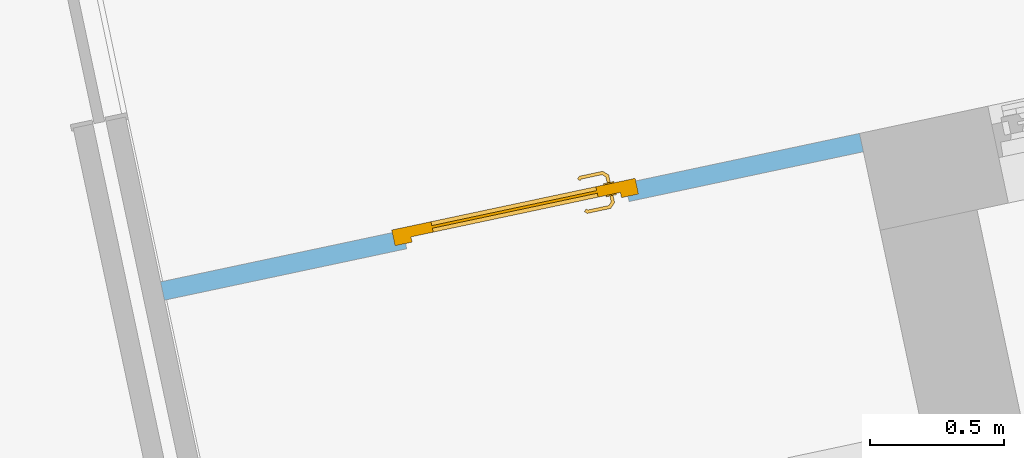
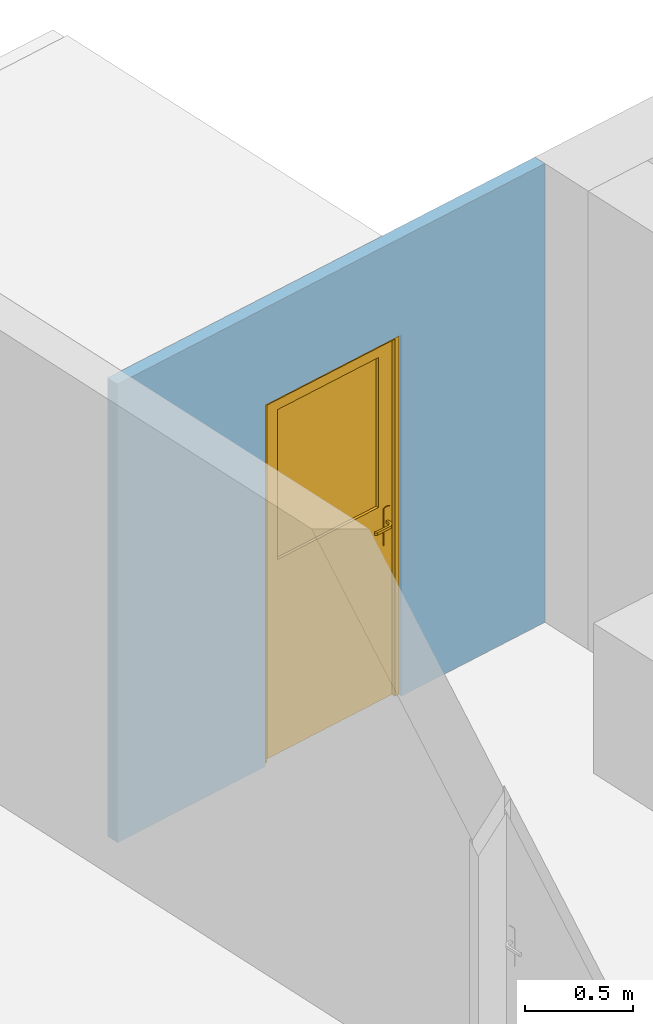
# One storey, part 9 of 17: 1 door, 1 opening, plus 1 element that does not belong to this part.
"""IFC2X3 building model written with IfcOpenShell, lengths in centimetres."""

import ifcopenshell
import ifcopenshell.guid

model = None  # the IFC model being written
_history = None  # IfcOwnerHistory: only IFC2X3 demands one
_inside = {}  # id of a spatial element -> (the spatial element, [elements in it])
_under = {}  # id of a project, library or spatial element -> (it, [spatial elements below it])
_declared = {}  # id of a project -> (the project, [libraries it declares])
_typed = {}  # id of a type object -> (the type object, [elements of that type])
_made_of = {}  # id of a material, layer set ... -> (it, [elements and type objects made of it])


def new_model(schema):
    """Start an empty IFC model of exactly this schema.

    Asked for "IFC4X3", IfcOpenShell would pick the latest addendum, in which some entities
    have other attributes; the version numbers below select the first issue.
    IFC2X3 requires an IfcOwnerHistory on every rooted entity: one is made here for all.
    """
    global model, _history
    if schema == "IFC4X3":
        model = ifcopenshell.file(schema_version=(4, 3, 0, 0))
    else:
        model = ifcopenshell.file(schema=schema)
    _inside.clear()
    _under.clear()
    _declared.clear()
    _typed.clear()
    _made_of.clear()
    _history = None
    if model.schema == "IFC2X3":
        org = make("IfcOrganization", Name="unknown")
        user = make(
            "IfcPersonAndOrganization",
            ThePerson=make("IfcPerson", FamilyName="unknown"),
            TheOrganization=org,
        )
        app = make(
            "IfcApplication",
            ApplicationDeveloper=org,
            Version="unknown",
            ApplicationFullName="unknown",
            ApplicationIdentifier="unknown",
        )
        _history = make(
            "IfcOwnerHistory",
            OwningUser=user,
            OwningApplication=app,
            ChangeAction="ADDED",
            CreationDate=0,
        )
    return model


def make(cls, **values):
    """One entity of the class cls with the attributes given. An attribute that is None is left unset."""
    return model.create_entity(
        cls, **{name: value for name, value in values.items() if value is not None}
    )


def entity(cls, *values):
    """Any entity or typed value of the class cls, its attributes in the order of the schema. None: left unset."""
    e = model.create_entity(cls)
    for i, value in enumerate(values):
        if value is not None:
            e[i] = value
    return e


def rooted(cls, **values):
    """An entity with a GlobalId (a new one), such as an element, a storey or a relation."""
    return make(cls, GlobalId=ifcopenshell.guid.new(), OwnerHistory=_history, **values)


def si_unit(unit_type, name, prefix=None):
    """IfcSIUnit, for example si_unit("LENGTHUNIT", "METRE", prefix="MILLI")."""
    return make("IfcSIUnit", UnitType=unit_type, Prefix=prefix, Name=name)


def converted_unit(unit_type, name, factor, base, dimensions=None, offset=None):
    """IfcConversionBasedUnit, such as the inch: factor (a typed value) times the base unit."""
    return make(
        "IfcConversionBasedUnit"
        if offset is None
        else "IfcConversionBasedUnitWithOffset",
        ConversionOffset=offset,
        Dimensions=None
        if dimensions is None
        else entity("IfcDimensionalExponents", *dimensions),
        UnitType=unit_type,
        Name=name,
        ConversionFactor=make(
            "IfcMeasureWithUnit", ValueComponent=factor, UnitComponent=base
        ),
    )


def derived_unit(unit_type, elements):
    """IfcDerivedUnit: a product of units, each with its exponent."""
    return make(
        "IfcDerivedUnit",
        Elements=[
            make("IfcDerivedUnitElement", Unit=unit, Exponent=power)
            for unit, power in elements
        ],
        UnitType=unit_type,
    )


def assignment(units):
    """IfcUnitAssignment: the units of a project."""
    return None if units is None else make("IfcUnitAssignment", Units=units)


def point(xyz):
    """IfcCartesianPoint."""
    return None if xyz is None else make("IfcCartesianPoint", Coordinates=xyz)


def direction(xyz):
    """IfcDirection."""
    return None if xyz is None else make("IfcDirection", DirectionRatios=xyz)


def frame(location, z_axis=None, x_axis=None):
    """IfcAxis2Placement3D, a coordinate frame: its origin and axes. An axis left out is left unset."""
    return make(
        "IfcAxis2Placement3D",
        Location=point(location),
        Axis=direction(z_axis),
        RefDirection=direction(x_axis),
    )


def frame_2d(location, x_axis=None):
    """IfcAxis2Placement2D, a coordinate frame in the plane: its origin and x axis."""
    return make(
        "IfcAxis2Placement2D", Location=point(location), RefDirection=direction(x_axis)
    )


def origin():
    """The frame at (0, 0, 0) with its axes left unset."""
    return frame((0.0, 0.0, 0.0))


def place(relative_to, where):
    """IfcLocalPlacement: puts the frame where relative to a parent placement (None: the world)."""
    return make(
        "IfcLocalPlacement", PlacementRelTo=relative_to, RelativePlacement=where
    )


def context(
    kind, dimensions, precision=None, world=None, true_north=None, identifier=None
):
    """IfcGeometricRepresentationContext, for example the 3D "Model" context."""
    return make(
        "IfcGeometricRepresentationContext",
        ContextIdentifier=identifier,
        ContextType=kind,
        CoordinateSpaceDimension=dimensions,
        Precision=precision,
        WorldCoordinateSystem=world,
        TrueNorth=true_north,
    )


def subcontext(parent, identifier, kind, view, scale=None):
    """IfcGeometricRepresentationSubContext, for example "Body" below "Model"."""
    return make(
        "IfcGeometricRepresentationSubContext",
        ContextIdentifier=identifier,
        ContextType=kind,
        ParentContext=parent,
        TargetScale=scale,
        TargetView=view,
    )


def project(units=None, contexts=None):
    """IfcProject with its units and contexts."""
    return rooted(
        "IfcProject",
        Name="project",
        RepresentationContexts=contexts,
        UnitsInContext=assignment(units),
    )


def spatial(cls, under=None, at=None, **own):
    """A site, building, storey or space (cls), placed at a placement, below another one or the project."""
    s = rooted(cls, ObjectPlacement=at, **own)
    if under is not None:
        _under.setdefault(under.id(), (under, []))[1].append(s)
    return s


def polyline(points):
    """IfcPolyline through the points."""
    return make("IfcPolyline", Points=[point(p) for p in points])


def profile(cls, at=None, kind="AREA", **sizes):
    """A parametric profile (cls). Its sizes go by their IFC names, for example OverallWidth=200.0."""
    return make(cls, ProfileType=kind, Position=at, **sizes)


def rectangle(**sizes):
    """IfcRectangleProfileDef."""
    return profile("IfcRectangleProfileDef", **sizes)


def extrude(swept, where, along, depth):
    """IfcExtrudedAreaSolid: the profile swept, set in the frame where, extruded along a direction by depth."""
    return make(
        "IfcExtrudedAreaSolid",
        SweptArea=swept,
        Position=where,
        ExtrudedDirection=direction(along),
        Depth=depth,
    )


def clip(a, b, op="DIFFERENCE"):
    """IfcBooleanClippingResult: the solid a cut by the half space b."""
    return make(
        "IfcBooleanClippingResult", Operator=op, FirstOperand=a, SecondOperand=b
    )


def bounded_halfspace(plane, agree, where, boundary):
    """IfcPolygonalBoundedHalfSpace: a half space limited to a polygon's prism."""
    return make(
        "IfcPolygonalBoundedHalfSpace",
        BaseSurface=make("IfcPlane", Position=plane),
        AgreementFlag=agree,
        Position=where,
        PolygonalBoundary=boundary,
    )


def faces_of(points, faces, orient=None, outer=None):
    """IfcFace entities. A face is a list of loops; a loop is a list of indices into points, from 0.

    orient and outer hold one flag for each loop. By default every Orientation is true, the
    first loop of a face is its IfcFaceOuterBound and the others are IfcFaceBound.
    """
    made = []
    for i, loops in enumerate(faces):
        bounds = []
        for j, loop in enumerate(loops):
            is_outer = j == 0 if outer is None else outer[i][j]
            bounds.append(
                make(
                    "IfcFaceOuterBound" if is_outer else "IfcFaceBound",
                    Bound=make("IfcPolyLoop", Polygon=[points[k] for k in loop]),
                    Orientation=True if orient is None else orient[i][j],
                )
            )
        made.append(make("IfcFace", Bounds=bounds))
    return made


def faceted_brep(points, faces, orient=None, outer=None, voids=None):
    """IfcFacetedBrep: a solid bounded by flat faces; with voids (closed shells), ...WithVoids."""
    shared = [point(p) for p in points]
    hull = make("IfcClosedShell", CfsFaces=faces_of(shared, faces, orient, outer))
    if voids is None:
        return make("IfcFacetedBrep", Outer=hull)
    return make(
        "IfcFacetedBrepWithVoids",
        Outer=hull,
        Voids=[
            make(cls, CfsFaces=faces_of(shared, fs, o, b)) for cls, fs, o, b in voids
        ],
    )


def shape(context_of_items, identifier, shape_type, items):
    """IfcShapeRepresentation: the items that make up one representation, for example the "Body"."""
    return make(
        "IfcShapeRepresentation",
        ContextOfItems=context_of_items,
        RepresentationIdentifier=identifier,
        RepresentationType=shape_type,
        Items=items,
    )


def source(mapping_origin, context_of_items, identifier, shape_type, items):
    """IfcRepresentationMap: a shape defined once, which mapped items show again and again."""
    return make(
        "IfcRepresentationMap",
        MappingOrigin=mapping_origin,
        MappedRepresentation=shape(context_of_items, identifier, shape_type, items),
    )


def transform(
    local_origin,
    x_axis=None,
    y_axis=None,
    z_axis=None,
    scale=None,
    scale2=None,
    scale3=None,
    uniform=True,
):
    """IfcCartesianTransformationOperator3D, or its non-uniform kind. x_axis, y_axis, z_axis: its Axis1, 2, 3."""
    if uniform:
        return make(
            "IfcCartesianTransformationOperator3D",
            Axis1=direction(x_axis),
            Axis2=direction(y_axis),
            LocalOrigin=point(local_origin),
            Scale=scale,
            Axis3=direction(z_axis),
        )
    return make(
        "IfcCartesianTransformationOperator3DnonUniform",
        Axis1=direction(x_axis),
        Axis2=direction(y_axis),
        LocalOrigin=point(local_origin),
        Scale=scale,
        Axis3=direction(z_axis),
        Scale2=scale2,
        Scale3=scale3,
    )


def mapped(mapping_source, mapping_target):
    """IfcMappedItem: shows the shape of a source again, moved by a transform."""
    return make(
        "IfcMappedItem", MappingSource=mapping_source, MappingTarget=mapping_target
    )


def material(Name=None, Category=None):
    """IfcMaterial."""
    return make("IfcMaterial", Name=Name, Category=Category)


def material_list(materials):
    """IfcMaterialList."""
    return make("IfcMaterialList", Materials=materials)


def layer(
    of_material, thickness, ventilated=None, Name=None, Category=None, Priority=None
):
    """IfcMaterialLayer: one layer of a wall or slab, of a material (None: an air gap)."""
    return make(
        "IfcMaterialLayer",
        Material=of_material,
        LayerThickness=thickness,
        IsVentilated=ventilated,
        Name=Name,
        Category=Category,
        Priority=Priority,
    )


def layer_set(layers, Name=None):
    """IfcMaterialLayerSet."""
    return make("IfcMaterialLayerSet", MaterialLayers=layers, LayerSetName=Name)


def layer_usage(for_layer_set, set_direction, sense, offset, extent=None):
    """IfcMaterialLayerSetUsage: how a layer set lies in its element."""
    return make(
        "IfcMaterialLayerSetUsage",
        ForLayerSet=for_layer_set,
        LayerSetDirection=set_direction,
        DirectionSense=sense,
        OffsetFromReferenceLine=offset,
        ReferenceExtent=extent,
    )


def made_of(thing, what):
    """Note that an element or type object is made of a material, layer set ...; save() writes the relation."""
    if what is not None:
        _made_of.setdefault(what.id(), (what, []))[1].append(thing)
    return thing


def type_object(cls, material=None, **own):
    """A type object (cls), such as IfcWallType, which elements share."""
    return made_of(rooted(cls, **own), material)


def type_shapes(of_type, sources):
    """Give a type object the sources (RepresentationMaps) that its elements show as mapped items."""
    of_type.RepresentationMaps = sources


def element(
    cls,
    number,
    at=None,
    inside=None,
    cuts=None,
    type_object=None,
    material=None,
    context=None,
    identifier="Body",
    shape_type=None,
    held_by="IfcProductDefinitionShape",
    body=None,
    shapes=None,
    **own,
):
    """One element of the class cls, such as IfcWall. Its Tag is "e" and its number.

    at: its placement. inside: the storey or other place that contains it. cuts: it is an
    opening in that element (IfcRelVoidsElement). A single representation is given by context,
    identifier, shape_type and body (its items); several are given by shapes. held_by: the class
    of the entity that holds the representations. save() writes the other relations.
    """
    e = rooted(cls, Tag="e%d" % number, ObjectPlacement=at, **own)
    if body is not None:
        shapes = [shape(context, identifier, shape_type, body)]
    if shapes is not None:
        e.Representation = make(held_by, Representations=shapes)
    if inside is not None:
        _inside.setdefault(inside.id(), (inside, []))[1].append(e)
    if cuts is not None:
        rooted(
            "IfcRelVoidsElement", RelatingBuildingElement=cuts, RelatedOpeningElement=e
        )
    if type_object is not None:
        _typed.setdefault(type_object.id(), (type_object, []))[1].append(e)
    return made_of(e, material)


def fill(opening, filler):
    """IfcRelFillsElement: the door or window that sits in an opening."""
    return rooted(
        "IfcRelFillsElement",
        RelatingOpeningElement=opening,
        RelatedBuildingElement=filler,
    )


def aggregate(whole, parts):
    """IfcRelAggregates: a whole, such as a stair, and the parts it consists of."""
    return rooted("IfcRelAggregates", RelatingObject=whole, RelatedObjects=parts)


def save(model, path):
    """Write the relations noted so far, then the file.

    IfcRelAggregates (storeys below a building ...), IfcRelContainedInSpatialStructure (elements
    in a storey), IfcRelDefinesByType, IfcRelAssociatesMaterial and IfcRelDeclares: one each for
    every whole, place, type object, material and project.
    """
    for whole, parts in _under.values():
        aggregate(whole, parts)
    for where, things in _inside.values():
        rooted(
            "IfcRelContainedInSpatialStructure",
            RelatedElements=things,
            RelatingStructure=where,
        )
    for kind, things in _typed.values():
        rooted("IfcRelDefinesByType", RelatedObjects=things, RelatingType=kind)
    for what, things in _made_of.values():
        rooted("IfcRelAssociatesMaterial", RelatedObjects=things, RelatingMaterial=what)
    for by, libraries in _declared.values():
        rooted("IfcRelDeclares", RelatingContext=by, RelatedDefinitions=libraries)
    model.write(path)


model = new_model("IFC2X3")

# Units and contexts
model_context = context("Model", 3, precision=0.001, world=origin(), true_north=direction((6.12303176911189e-17, 1.0)))
body_context = subcontext(model_context, "Body", "Model", "MODEL_VIEW")
ifc_project = project(units=[si_unit("LENGTHUNIT", "METRE", prefix="CENTI"), si_unit("AREAUNIT", "SQUARE_METRE"), si_unit("VOLUMEUNIT", "CUBIC_METRE"), converted_unit("PLANEANGLEUNIT", "DEGREE", entity("IfcRatioMeasure", 0.0174532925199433), si_unit("PLANEANGLEUNIT", "RADIAN"), dimensions=[0, 0, 0, 0, 0, 0, 0]), si_unit("MASSUNIT", "GRAM", prefix="KILO"), derived_unit("MASSDENSITYUNIT", [(si_unit("MASSUNIT", "GRAM", prefix="KILO"), 1), (si_unit("LENGTHUNIT", "METRE"), -3)]), derived_unit("IONCONCENTRATIONUNIT", [(si_unit("MASSUNIT", "GRAM", prefix="KILO"), 1), (si_unit("LENGTHUNIT", "METRE"), -3)]), derived_unit("MOMENTOFINERTIAUNIT", [(si_unit("LENGTHUNIT", "METRE"), 4)]), si_unit("TIMEUNIT", "SECOND"), si_unit("FREQUENCYUNIT", "HERTZ"), si_unit("THERMODYNAMICTEMPERATUREUNIT", "DEGREE_CELSIUS"), derived_unit("THERMALTRANSMITTANCEUNIT", [(si_unit("MASSUNIT", "GRAM", prefix="KILO"), 1), (si_unit("THERMODYNAMICTEMPERATUREUNIT", "KELVIN"), -1), (si_unit("TIMEUNIT", "SECOND"), -3)]), derived_unit("THERMALCONDUCTANCEUNIT", [(si_unit("MASSUNIT", "GRAM", prefix="KILO"), 1), (si_unit("THERMODYNAMICTEMPERATUREUNIT", "KELVIN"), -1), (si_unit("TIMEUNIT", "SECOND"), -3), (si_unit("LENGTHUNIT", "METRE"), 1)]), derived_unit("VOLUMETRICFLOWRATEUNIT", [(si_unit("LENGTHUNIT", "METRE"), 3), (si_unit("TIMEUNIT", "SECOND"), -1)]), derived_unit("MASSFLOWRATEUNIT", [(si_unit("MASSUNIT", "GRAM", prefix="KILO"), 1), (si_unit("TIMEUNIT", "SECOND"), -1)]), derived_unit("ROTATIONALFREQUENCYUNIT", [(si_unit("TIMEUNIT", "SECOND"), -1)]), si_unit("ELECTRICCURRENTUNIT", "AMPERE"), si_unit("ELECTRICVOLTAGEUNIT", "VOLT"), si_unit("POWERUNIT", "WATT"), si_unit("FORCEUNIT", "NEWTON", prefix="KILO"), si_unit("ILLUMINANCEUNIT", "LUX"), si_unit("LUMINOUSFLUXUNIT", "LUMEN"), si_unit("LUMINOUSINTENSITYUNIT", "CANDELA"), derived_unit("USERDEFINED", [(si_unit("MASSUNIT", "GRAM", prefix="KILO"), -1), (si_unit("LENGTHUNIT", "METRE"), -2), (si_unit("TIMEUNIT", "SECOND"), 3), (si_unit("LUMINOUSFLUXUNIT", "LUMEN"), 1)]), derived_unit("USERDEFINED", [(si_unit("MASSUNIT", "GRAM", prefix="KILO"), 1), (si_unit("TIMEUNIT", "SECOND"), -3), (si_unit("LENGTHUNIT", "METRE"), 3), (si_unit("ELECTRICCURRENTUNIT", "AMPERE"), -2)]), derived_unit("SOUNDPOWERUNIT", [(si_unit("MASSUNIT", "GRAM", prefix="KILO"), 1), (si_unit("TIMEUNIT", "SECOND"), -3), (si_unit("LENGTHUNIT", "METRE"), 2)]), derived_unit("SOUNDPRESSUREUNIT", [(si_unit("MASSUNIT", "GRAM", prefix="KILO"), 1), (si_unit("LENGTHUNIT", "METRE"), -1), (si_unit("TIMEUNIT", "SECOND"), -2)]), derived_unit("LINEARVELOCITYUNIT", [(si_unit("LENGTHUNIT", "METRE"), 1), (si_unit("TIMEUNIT", "SECOND"), -1)]), si_unit("PRESSUREUNIT", "PASCAL"), derived_unit("USERDEFINED", [(si_unit("MASSUNIT", "GRAM", prefix="KILO"), 1), (si_unit("LENGTHUNIT", "METRE"), -2), (si_unit("TIMEUNIT", "SECOND"), -2)]), derived_unit("LINEARFORCEUNIT", [(si_unit("MASSUNIT", "GRAM", prefix="KILO"), 1), (si_unit("TIMEUNIT", "SECOND"), -2)]), derived_unit("PLANARFORCEUNIT", [(si_unit("MASSUNIT", "GRAM", prefix="KILO"), 1), (si_unit("LENGTHUNIT", "METRE"), -1), (si_unit("TIMEUNIT", "SECOND"), -2)]), derived_unit("SPECIFICHEATCAPACITYUNIT", [(si_unit("THERMODYNAMICTEMPERATUREUNIT", "KELVIN"), -1), (si_unit("LENGTHUNIT", "METRE"), 2), (si_unit("TIMEUNIT", "SECOND"), -2)]), derived_unit("HEATINGVALUEUNIT", [(si_unit("LENGTHUNIT", "METRE"), 2), (si_unit("TIMEUNIT", "SECOND"), -2)]), derived_unit("VAPORPERMEABILITYUNIT", [(si_unit("LENGTHUNIT", "METRE"), -1), (si_unit("TIMEUNIT", "SECOND"), 1)]), derived_unit("DYNAMICVISCOSITYUNIT", [(si_unit("MASSUNIT", "GRAM", prefix="KILO"), 1), (si_unit("TIMEUNIT", "SECOND"), -1), (si_unit("LENGTHUNIT", "METRE"), -1)]), derived_unit("THERMALEXPANSIONCOEFFICIENTUNIT", [(si_unit("THERMODYNAMICTEMPERATUREUNIT", "KELVIN"), -1)]), derived_unit("MODULUSOFELASTICITYUNIT", [(si_unit("MASSUNIT", "GRAM", prefix="KILO"), 1), (si_unit("LENGTHUNIT", "METRE"), -1), (si_unit("TIMEUNIT", "SECOND"), -2)]), derived_unit("ISOTHERMALMOISTURECAPACITYUNIT", [(si_unit("LENGTHUNIT", "METRE"), 3), (si_unit("MASSUNIT", "GRAM", prefix="KILO"), -1)]), derived_unit("MOISTUREDIFFUSIVITYUNIT", [(si_unit("TIMEUNIT", "SECOND"), -1), (si_unit("LENGTHUNIT", "METRE"), 2)])], contexts=[model_context])

# Site, building, storey
site_placement = place(None, frame((14083.8920177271, -6853.25409548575, 6900.0), z_axis=(0.0, 0.0, 1.0), x_axis=(0.978188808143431, 0.207717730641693, 0.0)))
site = spatial("IfcSite", under=ifc_project, at=site_placement, Name="Surface", CompositionType="ELEMENT")
building_placement = place(site_placement, origin())
building = spatial("IfcBuilding", under=site, at=building_placement, CompositionType="ELEMENT")
storey_placement = place(building_placement, origin())
storey = spatial("IfcBuildingStorey", under=building, at=storey_placement, Name="_Rez de chaussée Séjour", CompositionType="ELEMENT", Elevation=2.07727662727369e-10)

# Wall, opening, door
ifc_material_1 = material(Name="__ BA 13")
ifc_layer = layer(ifc_material_1, 7.0)
ifc_layer_set = layer_set([ifc_layer], Name="Mur de base:*Cloison 72/48 cm")
ifc_layer_usage = layer_usage(ifc_layer_set, "AXIS2", "POSITIVE", -3.5)
wall_type = type_object("IfcWallType", Name="Mur de base:*Cloison 72/48 cm", PredefinedType="STANDARD", material=ifc_layer_set)
wall_placement = place(storey_placement, frame((-5987.81321908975, 15194.1673447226, 0.0), z_axis=(0.0, 0.0, 1.0), x_axis=(-1.0, 0.0, 0.0)))
wall = element("IfcWallStandardCase", 1, at=wall_placement, inside=storey, type_object=wall_type, material=ifc_layer_usage, Name="Mur de base:*Cloison 72/48 cm", ObjectType="Mur de base:*Cloison 72/48 cm", context=body_context, shape_type="Clipping", body=[
    clip(extrude(rectangle(XDim=266.999999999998, YDim=7.00000000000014, at=frame_2d((133.499999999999, -8.90176821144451e-13), x_axis=(1.0, 0.0))), origin(), (0.0, 0.0, 1.0), 260.0), bounded_halfspace(frame((0.0, -3.50000000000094, 260.0), z_axis=(0.0, 0.0, -1.0), x_axis=(-1.0, 0.0, 0.0)), True, frame((0.0, -3.50000000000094, 260.0)), polyline([(0.0, 0.0), (267.0, 0.0), (267.0, 7.0), (0.0, 7.0), (0.0, 0.0)]))),
])
opening_placement = place(wall_placement, frame((178.5, 33.5000000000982, 0.0), z_axis=(0.0, 0.0, 1.0), x_axis=(-1.0, 0.0, 0.0)))
opening = element("IfcOpeningElement", 2, at=opening_placement, cuts=wall, Name="Mur de base:*Cloison 72/48 cm", ObjectType="Opening", context=body_context, shape_type="Brep", body=[
    faceted_brep([(4.0, 67.0, 205.0), (4.0, 37.0, 205.0), (89.0, 37.0, 205.0), (89.0, 67.0, 205.0), (4.0, 0.0, 0.0), (4.0, 32.0, 0.0), (0.0, 32.0, 0.0), (0.0, 37.0, 0.0), (4.0, 37.0, 0.0), (4.0, 67.0, 0.0), (89.0, 67.0, 0.0), (89.0, 37.0, 0.0), (93.0, 37.0, 0.0), (93.0, 32.0, 0.0), (89.0, 32.0, 0.0), (89.0, 0.0, 0.0), (4.0, 0.0, 205.0), (89.0, 0.0, 205.0), (4.0, 32.0, 205.0), (0.0, 37.0, 209.0), (93.0, 37.0, 209.0), (93.0, 32.0, 209.0), (0.0, 32.0, 209.0), (89.0, 32.0, 205.0)], [[[0, 1, 2, 3]], [[4, 5, 6, 7, 8, 9, 10, 11, 12, 13, 14, 15]], [[16, 4, 15, 17]], [[3, 2, 11, 10]], [[3, 10, 9, 0]], [[16, 18, 5, 4]], [[11, 2, 1, 8, 7, 19, 20, 12]], [[12, 20, 21, 13]], [[13, 21, 22, 6, 5, 18, 23, 14]], [[19, 22, 21, 20]], [[7, 6, 22, 19]], [[9, 8, 1, 0]], [[15, 14, 23, 17]], [[17, 23, 18, 16]]]),
])
ifc_material_2 = material(Name="PVC - Blanc")
ifc_material_3 = material(Name="Verre")
ifc_material_list = material_list([ifc_material_2, ifc_material_3])
door_style = type_object("IfcDoorStyle", Name="PVC Panneau Vitré - Traverse:Pv 83x204", ConstructionType="NOTDEFINED", OperationType="SINGLE_SWING_RIGHT", ParameterTakesPrecedence=False, Sizeable=False, material=ifc_material_list)
shared_shape = source(origin(), body_context, "Body", "Brep", [
    faceted_brep([(9.79747013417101, -33.500000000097, 100.778044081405), (9.39999999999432, -33.500000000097, 100.699999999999), (9.3999999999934, -33.500000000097, 99.2999999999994), (9.79747013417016, -33.500000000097, 99.2219559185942), (10.2025298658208, -33.500000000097, 99.221955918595), (10.5999999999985, -33.500000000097, 99.300000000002), (10.5999999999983, -33.500000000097, 100.699999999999), (10.2025298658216, -33.500000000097, 100.778044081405), (10.5999999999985, -31.2514795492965, 99.300000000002), (10.5999999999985, -31.2514795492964, 100.699999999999), (10.2025298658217, -31.0868420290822, 100.778044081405), (11.5838906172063, -29.7054812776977, 100.778044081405), (11.4161093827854, -29.3004215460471, 100.778044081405), (9.79747013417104, -30.9190607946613, 100.778044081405), (20.5684749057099, -30.3532684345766, 100.778044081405), (20.8548953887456, -30.0668479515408, 100.778044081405), (20.0884689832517, -29.3004215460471, 100.778044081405), (19.9206877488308, -29.7054812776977, 100.778044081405), (9.39999999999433, -30.754423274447, 100.699999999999), (9.3999999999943, -30.7544232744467, 99.2999999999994), (9.79747013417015, -30.9190607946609, 99.2219559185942), (11.416109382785, -29.3004215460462, 99.2219559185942), (11.5838906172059, -29.7054812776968, 99.221955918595), (10.2025298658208, -31.0868420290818, 99.221955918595), (20.8548953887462, -30.0668479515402, 99.2219559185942), (20.5684749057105, -30.353268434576, 99.221955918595), (19.9206877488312, -29.7054812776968, 99.221955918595), (20.0884689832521, -29.3004215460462, 99.2219559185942), (11.7485281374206, -30.1029514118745, 99.300000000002), (11.7485281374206, -30.1029514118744, 100.699999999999), (11.2514718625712, -28.9029514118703, 100.699999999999), (11.2514718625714, -28.9029514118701, 99.2999999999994), (15.7522879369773, -30.1029514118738, 99.3000000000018), (19.7560502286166, -30.1029514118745, 99.300000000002), (19.7560502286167, -30.1029514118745, 100.699999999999), (15.7522891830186, -30.1029514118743, 100.699999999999), (15.7522891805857, -29.4875072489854, 100.787811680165), (20.2531065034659, -28.9029514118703, 100.699999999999), (16.260057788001, -28.9029514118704, 100.699999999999), (20.2531065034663, -28.9029514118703, 99.2999999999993), (15.2445206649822, -28.9029514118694, 99.2999999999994), (15.7522892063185, -29.4875072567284, 99.2121883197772), (20.2874210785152, -30.6343222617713, 99.3000000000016), (21.1359492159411, -29.7857941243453, 99.2999999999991), (21.135949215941, -29.7857941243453, 100.699999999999), (20.2874210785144, -30.6343222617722, 100.699999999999)], [[[0, 1, 2, 3, 4, 5, 6, 7]], [[6, 5, 8, 9]], [[9, 10, 7, 6]], [[10, 11, 12, 13, 0, 7]], [[14, 15, 16, 17]], [[13, 18, 1, 0]], [[2, 1, 18, 19]], [[19, 20, 3, 2]], [[20, 21, 22, 23, 4, 3]], [[24, 25, 26, 27]], [[23, 8, 5, 4]], [[9, 8, 28, 29]], [[29, 11, 10, 9]], [[12, 30, 18, 13]], [[19, 18, 30, 31]], [[31, 21, 20, 19]], [[22, 28, 8, 23]], [[29, 28, 32, 33, 34, 35]], [[11, 35, 36]], [[16, 37, 38]], [[30, 12, 38]], [[38, 12, 36]], [[36, 35, 17]], [[17, 16, 36]], [[35, 11, 29]], [[34, 17, 35]], [[11, 36, 12]], [[38, 36, 16]], [[31, 30, 38, 37, 39, 40]], [[40, 41, 21]], [[41, 40, 27]], [[21, 31, 40]], [[39, 27, 40]], [[41, 32, 22]], [[22, 21, 41]], [[26, 32, 41]], [[28, 22, 32]], [[32, 26, 33]], [[26, 41, 27]], [[42, 25, 24, 43, 44, 15, 14, 45]], [[34, 33, 42, 45]], [[45, 14, 17, 34]], [[15, 44, 37, 16]], [[39, 37, 44, 43]], [[43, 24, 27, 39]], [[25, 42, 33, 26]]]),
    faceted_brep([(9.79747013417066, -38.500000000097, 100.778044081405), (10.2025298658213, -38.500000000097, 100.778044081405), (10.5999999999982, -38.500000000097, 100.699999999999), (10.599999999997, -38.500000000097, 99.3000000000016), (10.2025298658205, -38.500000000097, 99.221955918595), (9.79747013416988, -38.500000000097, 99.2219559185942), (9.39999999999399, -38.500000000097, 99.2999999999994), (9.39999999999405, -38.500000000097, 100.699999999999), (9.39999999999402, -41.2650950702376, 100.699999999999), (9.79747013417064, -41.1004575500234, 100.778044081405), (11.4023585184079, -42.7053459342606, 100.778044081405), (11.5701397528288, -42.3002862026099, 100.778044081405), (10.2025298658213, -40.9326763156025, 100.778044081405), (20.8521810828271, -41.9389195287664, 100.778044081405), (20.5657605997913, -41.6524990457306, 100.778044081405), (19.9179734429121, -42.3002862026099, 100.778044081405), (20.0857546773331, -42.7053459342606, 100.778044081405), (10.5999999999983, -40.7680387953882, 100.699999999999), (10.5999999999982, -40.7680387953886, 99.3000000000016), (10.2025298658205, -40.9326763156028, 99.221955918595), (11.5701397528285, -42.3002862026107, 99.221955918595), (11.4023585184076, -42.7053459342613, 99.2219559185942), (9.79747013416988, -41.1004575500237, 99.2219559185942), (20.5657605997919, -41.6524990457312, 99.221955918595), (20.8521810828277, -41.9389195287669, 99.2219559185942), (20.0857546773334, -42.7053459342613, 99.2219559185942), (19.9179734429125, -42.3002862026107, 99.221955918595), (9.3999999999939, -41.2650950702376, 99.2999999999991), (11.2377209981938, -43.1028160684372, 100.699999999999), (11.7347772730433, -41.9028160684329, 100.699999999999), (11.7347772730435, -41.9028160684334, 99.3000000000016), (11.2377209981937, -43.1028160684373, 99.2999999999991), (15.2307697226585, -43.1028160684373, 100.699999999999), (15.7440566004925, -42.5182802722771, 100.787811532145), (20.2503921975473, -43.1028160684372, 100.699999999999), (15.7440565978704, -41.9028160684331, 100.699999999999), (19.7533359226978, -41.9028160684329, 100.699999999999), (19.7533359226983, -41.9028160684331, 99.3000000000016), (15.7440563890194, -41.9028160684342, 99.3000000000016), (15.74405657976, -42.5182802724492, 99.2121884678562), (20.2503921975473, -43.1028160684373, 99.2999999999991), (16.2573429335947, -43.1028160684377, 99.2999999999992), (20.2847067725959, -41.3714452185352, 100.699999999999), (21.1332349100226, -42.2199733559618, 100.699999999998), (21.1332349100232, -42.2199733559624, 99.2999999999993), (20.2847067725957, -41.3714452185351, 99.3000000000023)], [[[0, 1, 2, 3, 4, 5, 6, 7]], [[8, 9, 0, 7]], [[9, 10, 11, 12, 1, 0]], [[13, 14, 15, 16]], [[12, 17, 2, 1]], [[3, 2, 17, 18]], [[18, 19, 4, 3]], [[19, 20, 21, 22, 5, 4]], [[23, 24, 25, 26]], [[22, 27, 6, 5]], [[7, 6, 27, 8]], [[28, 10, 9, 8]], [[11, 29, 17, 12]], [[18, 17, 29, 30]], [[30, 20, 19, 18]], [[21, 31, 27, 22]], [[8, 27, 31, 28]], [[32, 33, 10]], [[33, 32, 16]], [[10, 28, 32]], [[34, 16, 32]], [[33, 35, 11]], [[11, 10, 33]], [[15, 35, 33]], [[29, 11, 35]], [[35, 15, 36]], [[15, 33, 16]], [[30, 29, 35, 36, 37, 38]], [[20, 38, 39]], [[25, 40, 41]], [[31, 21, 41]], [[41, 21, 39]], [[39, 38, 26]], [[26, 25, 39]], [[38, 20, 30]], [[37, 26, 38]], [[20, 39, 21]], [[41, 39, 25]], [[28, 31, 41, 40, 34, 32]], [[42, 14, 13, 43, 44, 24, 23, 45]], [[43, 13, 16, 34]], [[14, 42, 36, 15]], [[37, 36, 42, 45]], [[45, 23, 26, 37]], [[24, 44, 40, 25]], [[34, 40, 44, 43]]]),
    faceted_brep([(11.0352761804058, -34.0, 86.6003983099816), (12.0, -34.0, 87.0), (12.0, -34.0, 108.0), (11.0352761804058, -34.0, 108.399601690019), (10.0, -34.0, 108.535898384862), (8.96472381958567, -34.0, 108.399601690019), (8.0, -34.0, 108.0), (8.0, -34.0, 87.0), (8.96472381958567, -34.0, 86.6003983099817), (10.0, -34.0, 86.4641016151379), (11.0352761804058, -33.500000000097, 108.399601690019), (12.0, -33.500000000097, 108.0), (12.0, -33.500000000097, 87.0), (11.0352761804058, -33.500000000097, 86.6003983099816), (10.0, -33.500000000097, 86.4641016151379), (8.96472381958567, -33.500000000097, 86.6003983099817), (8.0, -33.500000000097, 87.0), (8.0, -33.500000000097, 108.0), (8.96472381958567, -33.500000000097, 108.399601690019), (10.0, -33.500000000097, 108.535898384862)], [[[0, 1, 2, 3, 4, 5, 6, 7, 8, 9]], [[10, 11, 12, 13, 14, 15, 16, 17, 18, 19]], [[11, 10, 3, 2]], [[3, 10, 19, 4]], [[19, 18, 5, 4]], [[18, 17, 6, 5]], [[7, 6, 17, 16]], [[16, 15, 8, 7]], [[8, 15, 14, 9]], [[14, 13, 0, 9]], [[13, 12, 1, 0]], [[2, 1, 12, 11]]]),
    faceted_brep([(11.0352761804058, -38.500000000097, 86.6003983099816), (12.0, -38.500000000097, 87.0), (12.0, -38.500000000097, 108.0), (11.0352761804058, -38.500000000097, 108.399601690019), (10.0, -38.500000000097, 108.535898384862), (8.96472381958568, -38.500000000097, 108.399601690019), (8.0, -38.500000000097, 108.0), (8.0, -38.500000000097, 87.0), (8.96472381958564, -38.500000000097, 86.6003983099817), (10.0, -38.500000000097, 86.4641016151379), (11.0352761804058, -38.0, 108.399601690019), (12.0, -38.0, 108.0), (12.0, -38.0, 87.0), (11.0352761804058, -38.0, 86.6003983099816), (10.0, -38.0, 86.4641016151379), (8.96472381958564, -38.0, 86.6003983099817), (8.0, -38.0, 87.0), (8.0, -38.0, 108.0), (8.96472381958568, -38.0, 108.399601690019), (10.0, -38.0, 108.535898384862)], [[[0, 1, 2, 3, 4, 5, 6, 7, 8, 9]], [[10, 11, 12, 13, 14, 15, 16, 17, 18, 19]], [[16, 15, 8, 7]], [[8, 15, 14, 9]], [[14, 13, 0, 9]], [[13, 12, 1, 0]], [[2, 1, 12, 11]], [[11, 10, 3, 2]], [[3, 10, 19, 4]], [[19, 18, 5, 4]], [[18, 17, 6, 5]], [[7, 6, 17, 16]]]),
    faceted_brep([(0.0, -38.0, 0.0), (0.0, -32.0, 0.0), (6.49999999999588, -32.0, 0.0), (6.49999999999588, -34.0, 0.0), (5.0, -34.0, 0.0), (5.0, -38.0, 0.0), (0.0, -38.0, 209.0), (0.0, -32.0, 209.0), (93.0, -32.0, 209.0), (93.0, -32.0, 0.0), (86.4999999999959, -32.0, 0.0), (86.4999999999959, -32.0, 202.500000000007), (6.49999999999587, -32.0, 202.500000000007), (6.49999999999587, -34.0, 202.500000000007), (86.4999999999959, -34.0, 202.500000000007), (86.4999999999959, -34.0, 0.0), (88.0, -34.0, 0.0), (88.0, -34.0, 204.0), (5.0, -34.0, 204.0), (5.0, -38.0, 204.0), (88.0, -38.0, 204.0), (88.0, -38.0, 0.0), (93.0, -38.0, 0.0), (93.0, -38.0, 209.0)], [[[0, 1, 2, 3, 4, 5]], [[1, 0, 6, 7]], [[2, 1, 7, 8, 9, 10, 11, 12]], [[3, 2, 12, 13]], [[4, 3, 13, 14, 15, 16, 17, 18]], [[5, 4, 18, 19]], [[0, 5, 19, 20, 21, 22, 23, 6]], [[8, 23, 22, 9]], [[22, 21, 16, 15, 10, 9]], [[14, 11, 10, 15]], [[20, 17, 16, 21]], [[7, 6, 23, 8]], [[13, 12, 11, 14]], [[19, 18, 17, 20]]]),
    faceted_brep([(15.0, -36.5000000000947, 195.0), (15.0, -36.5000000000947, 110.0), (78.0, -36.5000000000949, 110.0), (78.0, -36.5000000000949, 195.0), (15.0, -35.5000000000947, 195.0), (78.0, -35.5000000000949, 195.0), (78.0, -35.5000000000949, 110.0), (15.0, -35.5000000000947, 110.0)], [[[0, 1, 2, 3]], [[4, 5, 6, 7]], [[1, 0, 4, 7]], [[2, 1, 7, 6]], [[3, 2, 6, 5]], [[0, 3, 5, 4]]]),
    faceted_brep([(5.0, -38.0, 204.0), (5.0, -38.0, 0.0), (88.0, -38.0, 0.0), (88.0, -38.0, 204.0), (78.0, -38.0, 195.0), (78.0, -38.0, 110.0), (15.0, -38.0, 110.0), (15.0, -38.0, 195.0), (5.0, -34.0, 204.0), (88.0, -34.0, 204.0), (88.0, -34.0, 0.0), (5.0, -34.0, 0.0), (78.0, -34.0, 195.0), (15.0, -34.0, 195.0), (15.0, -34.0, 110.0), (78.0, -34.0, 110.0)], [[[0, 1, 2, 3], [4, 5, 6, 7]], [[8, 9, 10, 11], [12, 13, 14, 15]], [[1, 0, 8, 11]], [[2, 1, 11, 10]], [[3, 2, 10, 9]], [[0, 3, 9, 8]], [[5, 4, 12, 15]], [[6, 5, 15, 14]], [[7, 6, 14, 13]], [[4, 7, 13, 12]]]),
])
type_shapes(door_style, [shared_shape])
door_placement = place(opening_placement, frame((93.0, 0.0, 0.0), z_axis=(0.0, 0.0, 1.0), x_axis=(-1.0, 0.0, 0.0)))
door = element("IfcDoor", 3, at=door_placement, inside=storey, type_object=door_style, material=ifc_material_list, Name="PVC Panneau Vitré - Traverse:Pv 83x204", ObjectType="PVC Panneau Vitré - Traverse:Pv 83x204", OverallHeight=209.000000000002, OverallWidth=92.9999999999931, context=body_context, shape_type="MappedRepresentation", body=[
    mapped(shared_shape, transform((0.0, 0.0, 0.0), scale=1.0)),
])
fill(opening, door)

save(model, "model.ifc")
